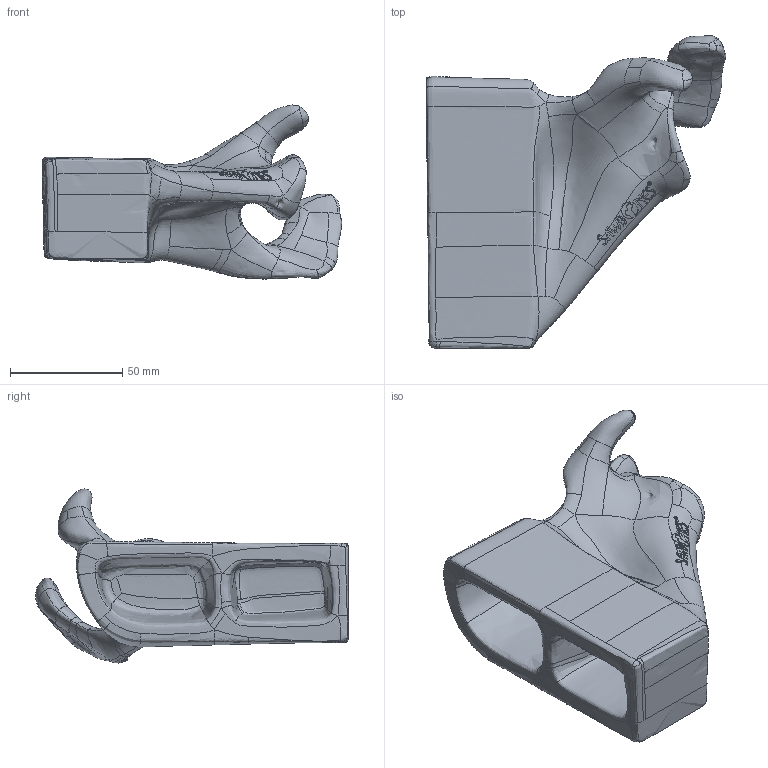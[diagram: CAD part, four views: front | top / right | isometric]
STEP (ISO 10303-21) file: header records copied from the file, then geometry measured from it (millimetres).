
FILE_DESCRIPTION (( 'STEP AP203' ), '1' );
FILE_NAME ('1050.STEP', '2025-05-22T20:24:53', ( '' ), ( '' ), 'SwSTEP 2.0', 'SolidWorks 2024', '' );
FILE_SCHEMA (( 'CONFIG_CONTROL_DESIGN' ));
Products named in the file (1): 1050
Bounding box: 133.29 x 139.18 x 77.47 mm (x, y, z)
Volume: 272763.5 mm3; surface area: 49300.7 mm2
Topology: 1 solids, 1 shells, 415 faces, 1078 edges, 675 vertices
Faces by surface type: bspline 415
Entity records: 245716 total; most frequent: CARTESIAN_POINT 238965, ORIENTED_EDGE 2156, EDGE_CURVE 1078, B_SPLINE_CURVE_WITH_KNOTS 1078, VERTEX_POINT 675, EDGE_LOOP 425, ADVANCED_FACE 415, FACE_OUTER_BOUND 415
